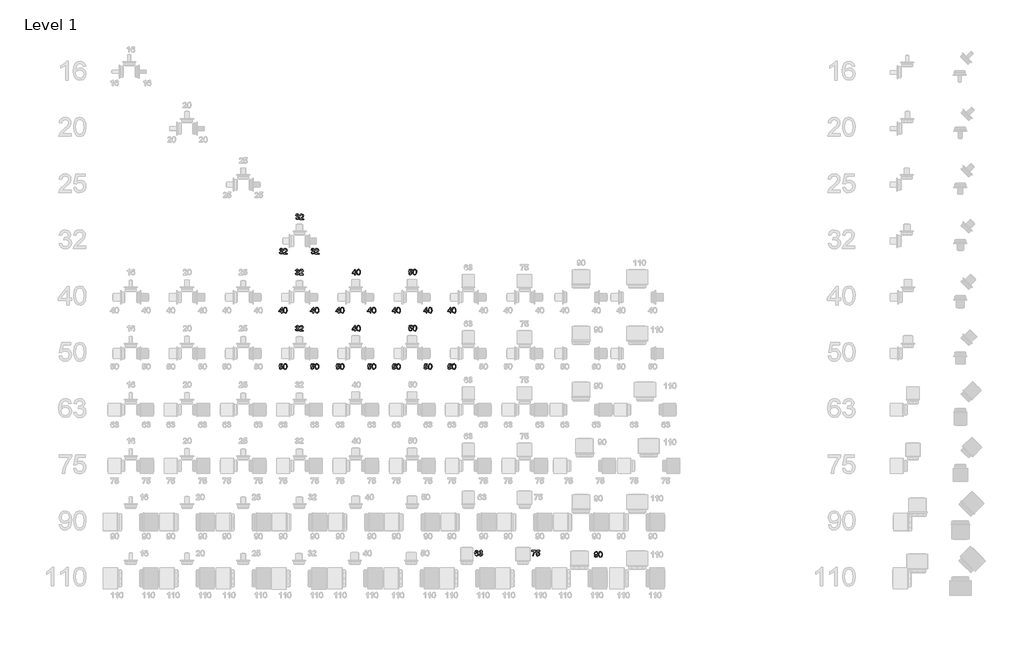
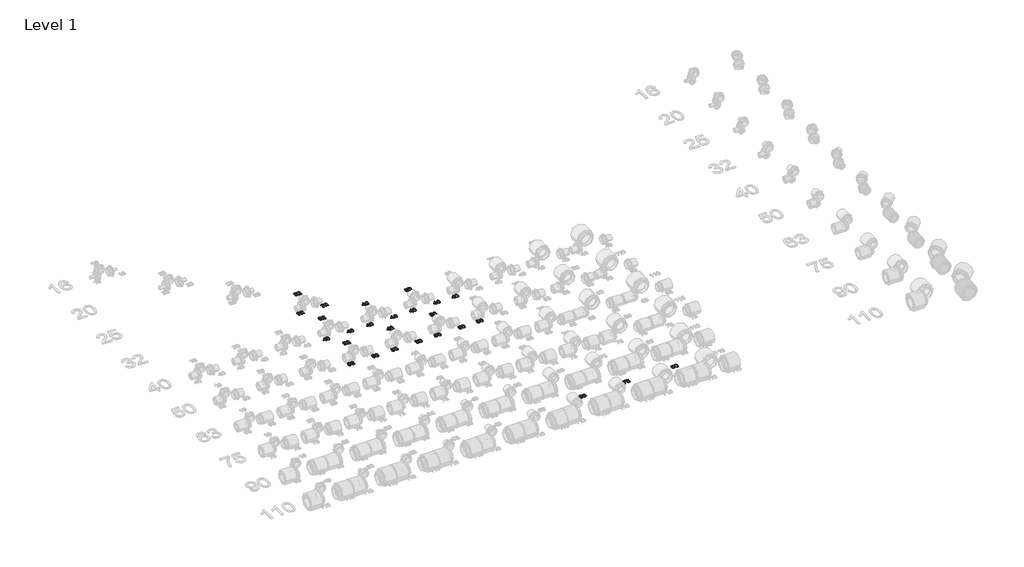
# One storey, part 24 of 58: 26 proxies.
"""IFC4 building model written with IfcOpenShell, lengths in millimetres."""

from ifc_helpers import new_model, si_unit, frame, origin, place, context, project, spatial, polyline, outline, extrude, element, save

model = new_model("IFC4")

# Units and contexts
model_context = context("Model", 3, world=origin())
ifc_project = project(units=[si_unit("LENGTHUNIT", "METRE", prefix="MILLI")], contexts=[model_context])

# Site, building, storey
site = spatial("IfcSite", under=ifc_project)
building = spatial("IfcBuilding", under=site)
storey = spatial("IfcBuildingStorey", under=building, Name="Level 1", Elevation=27.3876384)

# Proxies
placement = place(None, origin())
element("IfcBuildingElementProxy", 1, Name="30mm Arial", ObjectType="30mm Arial", at=placement, inside=storey, context=model_context, shape_type="SweptSolid", body=[
    extrude(outline(polyline([(14058.53543, 17685.5839661), (14062.3025417, 17686.0548551), (14064.3810749, 17682.0890872), (14068.2695876, 17680.8750766), (14072.8460396, 17682.5452609), (14074.5456545, 17686.6802545), (14072.8607549, 17690.5761248), (14068.5786085, 17692.1175504), (14065.9372158, 17691.7055225), (14066.3566012, 17695.4726342), (14071.2347165, 17696.5100614), (14073.1329876, 17699.8357146), (14071.7571089, 17702.7824494), (14068.2107265, 17703.9486353), (14064.6201982, 17702.771413), (14062.7734306, 17699.2397458), (14059.006319, 17699.7106348), (14062.0891701, 17705.6188196), (14068.078289, 17707.715747), (14072.6216316, 17706.6819986), (14075.8001321, 17703.8566648), (14076.9000992, 17700.0564438), (14075.8553144, 17696.5836378), (14072.7651056, 17694.0893979), (14076.8706687, 17691.5142239), (14078.3127661, 17686.6140357), (14075.4285712, 17679.8744376), (14068.1371501, 17677.107965), (14061.5299895, 17679.4697674), (14058.53543, 17685.5839661)])), frame((0.0, 0.0, 27.3876384), z_axis=(0.0, 0.0, 1.0), x_axis=(1.0, 0.0, 0.0)), (0.0, 0.0, 1.0), 2.0),
    extrude(outline(polyline([(14100.9154359, 17681.3459656), (14100.9154359, 17677.5788539), (14081.1380998, 17677.5788539), (14081.54277, 17680.1761008), (14083.830996, 17684.1749781), (14088.5472432, 17688.5417374), (14095.0513969, 17694.8178042), (14096.6774353, 17699.0852354), (14095.1433674, 17702.5396473), (14091.1371324, 17703.9486353), (14086.9616718, 17702.5727567), (14085.3761004, 17698.7688569), (14081.6089888, 17699.2397458), (14084.4968624, 17705.5452432), (14091.2180665, 17707.715747), (14097.9613434, 17705.3024411), (14100.4445469, 17699.3133222), (14099.7750017, 17695.741188), (14097.5493156, 17692.0476528), (14092.1524867, 17686.8862684), (14087.8188368, 17683.2626308), (14086.119222, 17681.3459656), (14100.9154359, 17681.3459656)])), frame((0.0, 0.0, 27.3876384), z_axis=(0.0, 0.0, 1.0), x_axis=(1.0, 0.0, 0.0)), (0.0, 0.0, 1.0), 2.0),
])
element("IfcBuildingElementProxy", 2, Name="30mm Arial", ObjectType="30mm Arial", at=placement, inside=storey, context=model_context, shape_type="SweptSolid", body=[
    extrude(outline(polyline([(14227.28543, 17685.5839661), (14231.0525417, 17686.0548551), (14233.1310749, 17682.0890872), (14237.0195876, 17680.8750766), (14241.5960396, 17682.5452609), (14243.2956545, 17686.6802545), (14241.6107549, 17690.5761248), (14237.3286085, 17692.1175504), (14234.6872158, 17691.7055225), (14235.1066012, 17695.4726342), (14239.9847165, 17696.5100614), (14241.8829876, 17699.8357146), (14240.5071089, 17702.7824494), (14236.9607265, 17703.9486353), (14233.3701982, 17702.771413), (14231.5234306, 17699.2397458), (14227.756319, 17699.7106348), (14230.8391701, 17705.6188196), (14236.828289, 17707.715747), (14241.3716316, 17706.6819986), (14244.5501321, 17703.8566648), (14245.6500992, 17700.0564438), (14244.6053144, 17696.5836378), (14241.5151056, 17694.0893979), (14245.6206687, 17691.5142239), (14247.0627661, 17686.6140357), (14244.1785712, 17679.8744376), (14236.8871501, 17677.107965), (14230.2799895, 17679.4697674), (14227.28543, 17685.5839661)])), frame((0.0, 0.0, 27.3876384), z_axis=(0.0, 0.0, 1.0), x_axis=(1.0, 0.0, 0.0)), (0.0, 0.0, 1.0), 2.0),
    extrude(outline(polyline([(14269.6654359, 17681.3459656), (14269.6654359, 17677.5788539), (14249.8880998, 17677.5788539), (14250.29277, 17680.1761008), (14252.580996, 17684.1749781), (14257.2972432, 17688.5417374), (14263.8013969, 17694.8178042), (14265.4274353, 17699.0852354), (14263.8933674, 17702.5396473), (14259.8871324, 17703.9486353), (14255.7116718, 17702.5727567), (14254.1261004, 17698.7688569), (14250.3589888, 17699.2397458), (14253.2468624, 17705.5452432), (14259.9680665, 17707.715747), (14266.7113434, 17705.3024411), (14269.1945469, 17699.3133222), (14268.5250017, 17695.741188), (14266.2993156, 17692.0476528), (14260.9024867, 17686.8862684), (14256.5688368, 17683.2626308), (14254.869222, 17681.3459656), (14269.6654359, 17681.3459656)])), frame((0.0, 0.0, 27.3876384), z_axis=(0.0, 0.0, 1.0), x_axis=(1.0, 0.0, 0.0)), (0.0, 0.0, 1.0), 2.0),
])
element("IfcBuildingElementProxy", 3, Name="30mm Arial", ObjectType="30mm Arial", at=placement, inside=storey, context=model_context, shape_type="SweptSolid", body=[
    extrude(outline(polyline([(14145.4636148, 17869.4026067), (14149.2307265, 17869.8734957), (14151.3092597, 17865.9077278), (14155.1977724, 17864.6937172), (14159.7742244, 17866.3639014), (14161.4738393, 17870.4988951), (14159.7889397, 17874.3947654), (14155.5067933, 17875.9361909), (14152.8654006, 17875.5241631), (14153.284786, 17879.2912747), (14158.1629013, 17880.328702), (14160.0611724, 17883.6543552), (14158.6852937, 17886.60109), (14155.1389113, 17887.7672759), (14151.548383, 17886.5900535), (14149.7016154, 17883.0583864), (14145.9345038, 17883.5292753), (14149.0173549, 17889.4374602), (14155.0064738, 17891.5343875), (14159.5498164, 17890.5006391), (14162.7283169, 17887.6753054), (14163.828284, 17883.8750844), (14162.7834992, 17880.4022784), (14159.6932904, 17877.9080384), (14163.7988535, 17875.3328645), (14165.2409509, 17870.4326763), (14162.356756, 17863.6930781), (14155.0653349, 17860.9266055), (14148.4581743, 17863.2884079), (14145.4636148, 17869.4026067)])), frame((0.0, 0.0, 27.3876384), z_axis=(0.0, 0.0, 1.0), x_axis=(1.0, 0.0, 0.0)), (0.0, 0.0, 1.0), 2.0),
    extrude(outline(polyline([(14187.8436207, 17865.1646061), (14187.8436207, 17861.3974945), (14168.0662846, 17861.3974945), (14168.4709548, 17863.9947414), (14170.7591808, 17867.9936187), (14175.475428, 17872.3603779), (14181.9795817, 17878.6364448), (14183.6056201, 17882.9038759), (14182.0715522, 17886.3582879), (14178.0653172, 17887.7672759), (14173.8898566, 17886.3913972), (14172.3042852, 17882.5874974), (14168.5371736, 17883.0583864), (14171.4250472, 17889.3638838), (14178.1462513, 17891.5343875), (14184.8895283, 17889.1210816), (14187.3727317, 17883.1319628), (14186.7031865, 17879.5598286), (14184.4775004, 17875.8662934), (14179.0806715, 17870.704909), (14174.7470216, 17867.0812713), (14173.0474068, 17865.1646061), (14187.8436207, 17865.1646061)])), frame((0.0, 0.0, 27.3876384), z_axis=(0.0, 0.0, 1.0), x_axis=(1.0, 0.0, 0.0)), (0.0, 0.0, 1.0), 2.0),
])
element("IfcBuildingElementProxy", 4, Name="30mm Arial", ObjectType="30mm Arial", at=placement, inside=storey, context=model_context, shape_type="SweptSolid", body=[
    extrude(outline(polyline([(14068.7785428, 17362.5788539), (14068.7785428, 17369.6421882), (14055.1227632, 17369.6421882), (14055.1227632, 17373.4092999), (14069.7203207, 17392.244858), (14072.5456545, 17392.244858), (14072.5456545, 17373.4092999), (14076.3127661, 17373.4092999), (14076.3127661, 17369.6421882), (14072.5456545, 17369.6421882), (14072.5456545, 17362.5788539), (14068.7785428, 17362.5788539)]), holes=[polyline([(14068.7785428, 17373.4092999), (14068.7785428, 17385.0490862), (14059.7580763, 17373.4092999), (14068.7785428, 17373.4092999)])]), frame((0.0, 0.0, 27.3876384), z_axis=(0.0, 0.0, 1.0), x_axis=(1.0, 0.0, 0.0)), (0.0, 0.0, 1.0), 2.0),
    extrude(outline(polyline([(14079.6089888, 17377.4044983), (14080.7163136, 17386.075477), (14084.0051786, 17391.0749933), (14089.4976568, 17392.715747), (14093.8975255, 17391.7445385), (14096.9362307, 17388.9449565), (14098.7020643, 17384.4862267), (14099.3863248, 17377.4044983), (14098.2900365, 17368.7703079), (14095.0122079, 17363.7597551), (14089.4976568, 17362.107965), (14082.6109058, 17364.9774445), (14079.6089888, 17377.4044983)]), holes=[polyline([(14083.3761004, 17377.411856), (14085.141934, 17368.0566168), (14089.4976568, 17365.8750766), (14093.8533796, 17368.0639745), (14095.6192132, 17377.411856), (14093.9122407, 17386.6604093), (14089.453511, 17388.9486353), (14085.2007951, 17386.932642), (14083.3761004, 17377.411856)])]), frame((0.0, 0.0, 27.3876384), z_axis=(0.0, 0.0, 1.0), x_axis=(1.0, 0.0, 0.0)), (0.0, 0.0, 1.0), 2.0),
])
element("IfcBuildingElementProxy", 5, Name="30mm Arial", ObjectType="30mm Arial", at=placement, inside=storey, context=model_context, shape_type="SweptSolid", body=[
    extrude(outline(polyline([(14237.5285428, 17362.5788539), (14237.5285428, 17369.6421882), (14223.8727632, 17369.6421882), (14223.8727632, 17373.4092999), (14238.4703207, 17392.244858), (14241.2956545, 17392.244858), (14241.2956545, 17373.4092999), (14245.0627661, 17373.4092999), (14245.0627661, 17369.6421882), (14241.2956545, 17369.6421882), (14241.2956545, 17362.5788539), (14237.5285428, 17362.5788539)]), holes=[polyline([(14237.5285428, 17373.4092999), (14237.5285428, 17385.0490862), (14228.5080763, 17373.4092999), (14237.5285428, 17373.4092999)])]), frame((0.0, 0.0, 27.3876384), z_axis=(0.0, 0.0, 1.0), x_axis=(1.0, 0.0, 0.0)), (0.0, 0.0, 1.0), 2.0),
    extrude(outline(polyline([(14248.3589888, 17377.4044983), (14249.4663136, 17386.075477), (14252.7551786, 17391.0749933), (14258.2476568, 17392.715747), (14262.6475255, 17391.7445385), (14265.6862307, 17388.9449565), (14267.4520643, 17384.4862267), (14268.1363248, 17377.4044983), (14267.0400365, 17368.7703079), (14263.7622079, 17363.7597551), (14258.2476568, 17362.107965), (14251.3609058, 17364.9774445), (14248.3589888, 17377.4044983)]), holes=[polyline([(14252.1261004, 17377.411856), (14253.891934, 17368.0566168), (14258.2476568, 17365.8750766), (14262.6033796, 17368.0639745), (14264.3692132, 17377.411856), (14262.6622407, 17386.6604093), (14258.203511, 17388.9486353), (14253.9507951, 17386.932642), (14252.1261004, 17377.411856)])]), frame((0.0, 0.0, 27.3876384), z_axis=(0.0, 0.0, 1.0), x_axis=(1.0, 0.0, 0.0)), (0.0, 0.0, 1.0), 2.0),
])
element("IfcBuildingElementProxy", 6, Name="30mm Arial", ObjectType="30mm Arial", at=placement, inside=storey, context=model_context, shape_type="SweptSolid", body=[
    extrude(outline(polyline([(14143.4636148, 17574.4026067), (14147.2307265, 17574.8734957), (14149.3092597, 17570.9077278), (14153.1977724, 17569.6937172), (14157.7742244, 17571.3639014), (14159.4738393, 17575.4988951), (14157.7889397, 17579.3947654), (14153.5067933, 17580.9361909), (14150.8654006, 17580.5241631), (14151.284786, 17584.2912747), (14156.1629013, 17585.328702), (14158.0611724, 17588.6543552), (14156.6852937, 17591.60109), (14153.1389113, 17592.7672759), (14149.548383, 17591.5900535), (14147.7016154, 17588.0583864), (14143.9345038, 17588.5292753), (14147.0173549, 17594.4374602), (14153.0064738, 17596.5343875), (14157.5498164, 17595.5006391), (14160.7283169, 17592.6753054), (14161.828284, 17588.8750844), (14160.7834992, 17585.4022784), (14157.6932904, 17582.9080384), (14161.7988535, 17580.3328645), (14163.2409509, 17575.4326763), (14160.356756, 17568.6930781), (14153.0653349, 17565.9266055), (14146.4581743, 17568.2884079), (14143.4636148, 17574.4026067)])), frame((0.0, 0.0, 27.3876384), z_axis=(0.0, 0.0, 1.0), x_axis=(1.0, 0.0, 0.0)), (0.0, 0.0, 1.0), 2.0),
    extrude(outline(polyline([(14185.8436207, 17570.1646061), (14185.8436207, 17566.3974945), (14166.0662846, 17566.3974945), (14166.4709548, 17568.9947414), (14168.7591808, 17572.9936187), (14173.475428, 17577.3603779), (14179.9795817, 17583.6364448), (14181.6056201, 17587.9038759), (14180.0715522, 17591.3582879), (14176.0653172, 17592.7672759), (14171.8898566, 17591.3913972), (14170.3042852, 17587.5874974), (14166.5371736, 17588.0583864), (14169.4250472, 17594.3638838), (14176.1462513, 17596.5343875), (14182.8895283, 17594.1210816), (14185.3727317, 17588.1319628), (14184.7031865, 17584.5598286), (14182.4775004, 17580.8662934), (14177.0806715, 17575.704909), (14172.7470216, 17572.0812713), (14171.0474068, 17570.1646061), (14185.8436207, 17570.1646061)])), frame((0.0, 0.0, 27.3876384), z_axis=(0.0, 0.0, 1.0), x_axis=(1.0, 0.0, 0.0)), (0.0, 0.0, 1.0), 2.0),
])
element("IfcBuildingElementProxy", 7, Name="30mm Arial", ObjectType="30mm Arial", at=placement, inside=storey, context=model_context, shape_type="SweptSolid", body=[
    extrude(outline(polyline([(14372.7785428, 17362.5788539), (14372.7785428, 17369.6421882), (14359.1227632, 17369.6421882), (14359.1227632, 17373.4092999), (14373.7203207, 17392.244858), (14376.5456545, 17392.244858), (14376.5456545, 17373.4092999), (14380.3127661, 17373.4092999), (14380.3127661, 17369.6421882), (14376.5456545, 17369.6421882), (14376.5456545, 17362.5788539), (14372.7785428, 17362.5788539)]), holes=[polyline([(14372.7785428, 17373.4092999), (14372.7785428, 17385.0490862), (14363.7580763, 17373.4092999), (14372.7785428, 17373.4092999)])]), frame((0.0, 0.0, 27.3876384), z_axis=(0.0, 0.0, 1.0), x_axis=(1.0, 0.0, 0.0)), (0.0, 0.0, 1.0), 2.0),
    extrude(outline(polyline([(14383.6089888, 17377.4044983), (14384.7163136, 17386.075477), (14388.0051786, 17391.0749933), (14393.4976568, 17392.715747), (14397.8975255, 17391.7445385), (14400.9362307, 17388.9449565), (14402.7020643, 17384.4862267), (14403.3863248, 17377.4044983), (14402.2900365, 17368.7703079), (14399.0122079, 17363.7597551), (14393.4976568, 17362.107965), (14386.6109058, 17364.9774445), (14383.6089888, 17377.4044983)]), holes=[polyline([(14387.3761004, 17377.411856), (14389.141934, 17368.0566168), (14393.4976568, 17365.8750766), (14397.8533796, 17368.0639745), (14399.6192132, 17377.411856), (14397.9122407, 17386.6604093), (14393.453511, 17388.9486353), (14389.2007951, 17386.932642), (14387.3761004, 17377.411856)])]), frame((0.0, 0.0, 27.3876384), z_axis=(0.0, 0.0, 1.0), x_axis=(1.0, 0.0, 0.0)), (0.0, 0.0, 1.0), 2.0),
])
element("IfcBuildingElementProxy", 8, Name="30mm Arial", ObjectType="30mm Arial", at=placement, inside=storey, context=model_context, shape_type="SweptSolid", body=[
    extrude(outline(polyline([(14541.5285428, 17362.5788539), (14541.5285428, 17369.6421882), (14527.8727632, 17369.6421882), (14527.8727632, 17373.4092999), (14542.4703207, 17392.244858), (14545.2956545, 17392.244858), (14545.2956545, 17373.4092999), (14549.0627661, 17373.4092999), (14549.0627661, 17369.6421882), (14545.2956545, 17369.6421882), (14545.2956545, 17362.5788539), (14541.5285428, 17362.5788539)]), holes=[polyline([(14541.5285428, 17373.4092999), (14541.5285428, 17385.0490862), (14532.5080763, 17373.4092999), (14541.5285428, 17373.4092999)])]), frame((0.0, 0.0, 27.3876384), z_axis=(0.0, 0.0, 1.0), x_axis=(1.0, 0.0, 0.0)), (0.0, 0.0, 1.0), 2.0),
    extrude(outline(polyline([(14552.3589888, 17377.4044983), (14553.4663136, 17386.075477), (14556.7551786, 17391.0749933), (14562.2476568, 17392.715747), (14566.6475255, 17391.7445385), (14569.6862307, 17388.9449565), (14571.4520643, 17384.4862267), (14572.1363248, 17377.4044983), (14571.0400365, 17368.7703079), (14567.7622079, 17363.7597551), (14562.2476568, 17362.107965), (14555.3609058, 17364.9774445), (14552.3589888, 17377.4044983)]), holes=[polyline([(14556.1261004, 17377.411856), (14557.891934, 17368.0566168), (14562.2476568, 17365.8750766), (14566.6033796, 17368.0639745), (14568.3692132, 17377.411856), (14566.6622407, 17386.6604093), (14562.203511, 17388.9486353), (14557.9507951, 17386.932642), (14556.1261004, 17377.411856)])]), frame((0.0, 0.0, 27.3876384), z_axis=(0.0, 0.0, 1.0), x_axis=(1.0, 0.0, 0.0)), (0.0, 0.0, 1.0), 2.0),
])
element("IfcBuildingElementProxy", 9, Name="30mm Arial", ObjectType="30mm Arial", at=placement, inside=storey, context=model_context, shape_type="SweptSolid", body=[
    extrude(outline(polyline([(14459.7067276, 17566.3974945), (14459.7067276, 17573.4608288), (14446.050948, 17573.4608288), (14446.050948, 17577.2279404), (14460.6485055, 17596.0634986), (14463.4738393, 17596.0634986), (14463.4738393, 17577.2279404), (14467.2409509, 17577.2279404), (14467.2409509, 17573.4608288), (14463.4738393, 17573.4608288), (14463.4738393, 17566.3974945), (14459.7067276, 17566.3974945)]), holes=[polyline([(14459.7067276, 17577.2279404), (14459.7067276, 17588.8677268), (14450.6862611, 17577.2279404), (14459.7067276, 17577.2279404)])]), frame((0.0, 0.0, 27.3876384), z_axis=(0.0, 0.0, 1.0), x_axis=(1.0, 0.0, 0.0)), (0.0, 0.0, 1.0), 2.0),
    extrude(outline(polyline([(14470.5371736, 17581.2231389), (14471.6444984, 17589.8941175), (14474.9333634, 17594.8936338), (14480.4258416, 17596.5343875), (14484.8257103, 17595.5631791), (14487.8644155, 17592.7635971), (14489.6302491, 17588.3048673), (14490.3145096, 17581.2231389), (14489.2182213, 17572.5889485), (14485.9403927, 17567.5783957), (14480.4258416, 17565.9266055), (14473.5390906, 17568.7960851), (14470.5371736, 17581.2231389)]), holes=[polyline([(14474.3042852, 17581.2304965), (14476.0701188, 17571.8752574), (14480.4258416, 17569.6937172), (14484.7815644, 17571.882615), (14486.547398, 17581.2304965), (14484.8404255, 17590.4790499), (14480.3816958, 17592.7672759), (14476.1289799, 17590.7512826), (14474.3042852, 17581.2304965)])]), frame((0.0, 0.0, 27.3876384), z_axis=(0.0, 0.0, 1.0), x_axis=(1.0, 0.0, 0.0)), (0.0, 0.0, 1.0), 2.0),
])
element("IfcBuildingElementProxy", 10, Name="30mm Arial", ObjectType="30mm Arial", at=placement, inside=storey, context=model_context, shape_type="SweptSolid", body=[
    extrude(outline(polyline([(14672.7785428, 17362.5788539), (14672.7785428, 17369.6421882), (14659.1227632, 17369.6421882), (14659.1227632, 17373.4092999), (14673.7203207, 17392.244858), (14676.5456545, 17392.244858), (14676.5456545, 17373.4092999), (14680.3127661, 17373.4092999), (14680.3127661, 17369.6421882), (14676.5456545, 17369.6421882), (14676.5456545, 17362.5788539), (14672.7785428, 17362.5788539)]), holes=[polyline([(14672.7785428, 17373.4092999), (14672.7785428, 17385.0490862), (14663.7580763, 17373.4092999), (14672.7785428, 17373.4092999)])]), frame((0.0, 0.0, 27.3876384), z_axis=(0.0, 0.0, 1.0), x_axis=(1.0, 0.0, 0.0)), (0.0, 0.0, 1.0), 2.0),
    extrude(outline(polyline([(14683.6089888, 17377.4044983), (14684.7163136, 17386.075477), (14688.0051786, 17391.0749933), (14693.4976568, 17392.715747), (14697.8975255, 17391.7445385), (14700.9362307, 17388.9449565), (14702.7020643, 17384.4862267), (14703.3863248, 17377.4044983), (14702.2900365, 17368.7703079), (14699.0122079, 17363.7597551), (14693.4976568, 17362.107965), (14686.6109058, 17364.9774445), (14683.6089888, 17377.4044983)]), holes=[polyline([(14687.3761004, 17377.411856), (14689.141934, 17368.0566168), (14693.4976568, 17365.8750766), (14697.8533796, 17368.0639745), (14699.6192132, 17377.411856), (14697.9122407, 17386.6604093), (14693.453511, 17388.9486353), (14689.2007951, 17386.932642), (14687.3761004, 17377.411856)])]), frame((0.0, 0.0, 27.3876384), z_axis=(0.0, 0.0, 1.0), x_axis=(1.0, 0.0, 0.0)), (0.0, 0.0, 1.0), 2.0),
])
element("IfcBuildingElementProxy", 11, Name="30mm Arial", ObjectType="30mm Arial", at=placement, inside=storey, context=model_context, shape_type="SweptSolid", body=[
    extrude(outline(polyline([(14841.5285428, 17362.5788539), (14841.5285428, 17369.6421882), (14827.8727632, 17369.6421882), (14827.8727632, 17373.4092999), (14842.4703207, 17392.244858), (14845.2956545, 17392.244858), (14845.2956545, 17373.4092999), (14849.0627661, 17373.4092999), (14849.0627661, 17369.6421882), (14845.2956545, 17369.6421882), (14845.2956545, 17362.5788539), (14841.5285428, 17362.5788539)]), holes=[polyline([(14841.5285428, 17373.4092999), (14841.5285428, 17385.0490862), (14832.5080763, 17373.4092999), (14841.5285428, 17373.4092999)])]), frame((0.0, 0.0, 27.3876384), z_axis=(0.0, 0.0, 1.0), x_axis=(1.0, 0.0, 0.0)), (0.0, 0.0, 1.0), 2.0),
    extrude(outline(polyline([(14852.3589888, 17377.4044983), (14853.4663136, 17386.075477), (14856.7551786, 17391.0749933), (14862.2476568, 17392.715747), (14866.6475255, 17391.7445385), (14869.6862307, 17388.9449565), (14871.4520643, 17384.4862267), (14872.1363248, 17377.4044983), (14871.0400365, 17368.7703079), (14867.7622079, 17363.7597551), (14862.2476568, 17362.107965), (14855.3609058, 17364.9774445), (14852.3589888, 17377.4044983)]), holes=[polyline([(14856.1261004, 17377.411856), (14857.891934, 17368.0566168), (14862.2476568, 17365.8750766), (14866.6033796, 17368.0639745), (14868.3692132, 17377.411856), (14866.6622407, 17386.6604093), (14862.203511, 17388.9486353), (14857.9507951, 17386.932642), (14856.1261004, 17377.411856)])]), frame((0.0, 0.0, 27.3876384), z_axis=(0.0, 0.0, 1.0), x_axis=(1.0, 0.0, 0.0)), (0.0, 0.0, 1.0), 2.0),
])
element("IfcBuildingElementProxy", 12, Name="30mm Arial", ObjectType="30mm Arial", at=placement, inside=storey, context=model_context, shape_type="SweptSolid", body=[
    extrude(outline(polyline([(14747.4636148, 17574.4026067), (14751.2307265, 17574.8734957), (14753.1289976, 17570.9923406), (14757.0653349, 17569.6937172), (14761.7889397, 17571.5000178), (14763.4738393, 17576.2935202), (14761.8956255, 17580.7669652), (14757.124196, 17582.4077189), (14753.8169369, 17581.752889), (14751.7016154, 17580.0532742), (14747.9345038, 17580.5241631), (14751.2307265, 17596.0634986), (14765.828284, 17596.0634986), (14765.828284, 17592.296387), (14754.2767894, 17592.296387), (14752.6654662, 17583.9969691), (14758.1763385, 17586.1748306), (14764.6179523, 17583.4745767), (14767.2409509, 17576.5289646), (14764.8791485, 17569.5392067), (14757.0506196, 17565.9266055), (14750.402992, 17568.2479409), (14747.4636148, 17574.4026067)])), frame((0.0, 0.0, 27.3876384), z_axis=(0.0, 0.0, 1.0), x_axis=(1.0, 0.0, 0.0)), (0.0, 0.0, 1.0), 2.0),
    extrude(outline(polyline([(14770.5371736, 17581.2231389), (14771.6444984, 17589.8941175), (14774.9333634, 17594.8936338), (14780.4258416, 17596.5343875), (14784.8257103, 17595.5631791), (14787.8644155, 17592.7635971), (14789.6302491, 17588.3048673), (14790.3145096, 17581.2231389), (14789.2182213, 17572.5889485), (14785.9403927, 17567.5783957), (14780.4258416, 17565.9266055), (14773.5390906, 17568.7960851), (14770.5371736, 17581.2231389)]), holes=[polyline([(14774.3042852, 17581.2304965), (14776.0701188, 17571.8752574), (14780.4258416, 17569.6937172), (14784.7815644, 17571.882615), (14786.547398, 17581.2304965), (14784.8404255, 17590.4790499), (14780.3816958, 17592.7672759), (14776.1289799, 17590.7512826), (14774.3042852, 17581.2304965)])]), frame((0.0, 0.0, 27.3876384), z_axis=(0.0, 0.0, 1.0), x_axis=(1.0, 0.0, 0.0)), (0.0, 0.0, 1.0), 2.0),
])
element("IfcBuildingElementProxy", 13, Name="30mm Arial", ObjectType="30mm Arial", at=placement, inside=storey, context=model_context, shape_type="SweptSolid", body=[
    extrude(outline(polyline([(14968.7785428, 17362.5788539), (14968.7785428, 17369.6421882), (14955.1227632, 17369.6421882), (14955.1227632, 17373.4092999), (14969.7203207, 17392.244858), (14972.5456545, 17392.244858), (14972.5456545, 17373.4092999), (14976.3127661, 17373.4092999), (14976.3127661, 17369.6421882), (14972.5456545, 17369.6421882), (14972.5456545, 17362.5788539), (14968.7785428, 17362.5788539)]), holes=[polyline([(14968.7785428, 17373.4092999), (14968.7785428, 17385.0490862), (14959.7580763, 17373.4092999), (14968.7785428, 17373.4092999)])]), frame((0.0, 0.0, 27.3876384), z_axis=(0.0, 0.0, 1.0), x_axis=(1.0, 0.0, 0.0)), (0.0, 0.0, 1.0), 2.0),
    extrude(outline(polyline([(14979.6089888, 17377.4044983), (14980.7163136, 17386.075477), (14984.0051786, 17391.0749933), (14989.4976568, 17392.715747), (14993.8975255, 17391.7445385), (14996.9362307, 17388.9449565), (14998.7020643, 17384.4862267), (14999.3863248, 17377.4044983), (14998.2900365, 17368.7703079), (14995.0122079, 17363.7597551), (14989.4976568, 17362.107965), (14982.6109058, 17364.9774445), (14979.6089888, 17377.4044983)]), holes=[polyline([(14983.3761004, 17377.411856), (14985.141934, 17368.0566168), (14989.4976568, 17365.8750766), (14993.8533796, 17368.0639745), (14995.6192132, 17377.411856), (14993.9122407, 17386.6604093), (14989.453511, 17388.9486353), (14985.2007951, 17386.932642), (14983.3761004, 17377.411856)])]), frame((0.0, 0.0, 27.3876384), z_axis=(0.0, 0.0, 1.0), x_axis=(1.0, 0.0, 0.0)), (0.0, 0.0, 1.0), 2.0),
])
element("IfcBuildingElementProxy", 14, Name="30mm Arial", ObjectType="30mm Arial", at=placement, inside=storey, context=model_context, shape_type="SweptSolid", body=[
    extrude(outline(polyline([(14056.53543, 17070.5839661), (14060.3025417, 17071.0548551), (14062.2008128, 17067.1737001), (14066.1371501, 17065.8750766), (14070.8607549, 17067.6813772), (14072.5456545, 17072.4748796), (14070.9674407, 17076.9483247), (14066.1960112, 17078.5890784), (14062.8887521, 17077.9342484), (14060.7734306, 17076.2346336), (14057.006319, 17076.7055225), (14060.3025417, 17092.244858), (14074.9000992, 17092.244858), (14074.9000992, 17088.4777464), (14063.3486046, 17088.4777464), (14061.7372814, 17080.1783286), (14067.2481537, 17082.35619), (14073.6897675, 17079.6559361), (14076.3127661, 17072.7103241), (14073.9509637, 17065.7205662), (14066.1224348, 17062.107965), (14059.4748072, 17064.4293004), (14056.53543, 17070.5839661)])), frame((0.0, 0.0, 27.3876384), z_axis=(0.0, 0.0, 1.0), x_axis=(1.0, 0.0, 0.0)), (0.0, 0.0, 1.0), 2.0),
    extrude(outline(polyline([(14079.6089888, 17077.4044983), (14080.7163136, 17086.075477), (14084.0051786, 17091.0749933), (14089.4976568, 17092.715747), (14093.8975255, 17091.7445385), (14096.9362307, 17088.9449565), (14098.7020643, 17084.4862267), (14099.3863248, 17077.4044983), (14098.2900365, 17068.7703079), (14095.0122079, 17063.7597551), (14089.4976568, 17062.107965), (14082.6109058, 17064.9774445), (14079.6089888, 17077.4044983)]), holes=[polyline([(14083.3761004, 17077.411856), (14085.141934, 17068.0566168), (14089.4976568, 17065.8750766), (14093.8533796, 17068.0639745), (14095.6192132, 17077.411856), (14093.9122407, 17086.6604093), (14089.453511, 17088.9486353), (14085.2007951, 17086.932642), (14083.3761004, 17077.411856)])]), frame((0.0, 0.0, 27.3876384), z_axis=(0.0, 0.0, 1.0), x_axis=(1.0, 0.0, 0.0)), (0.0, 0.0, 1.0), 2.0),
])
element("IfcBuildingElementProxy", 15, Name="30mm Arial", ObjectType="30mm Arial", at=placement, inside=storey, context=model_context, shape_type="SweptSolid", body=[
    extrude(outline(polyline([(14225.28543, 17070.5839661), (14229.0525417, 17071.0548551), (14230.9508128, 17067.1737001), (14234.8871501, 17065.8750766), (14239.6107549, 17067.6813772), (14241.2956545, 17072.4748796), (14239.7174407, 17076.9483247), (14234.9460112, 17078.5890784), (14231.6387521, 17077.9342484), (14229.5234306, 17076.2346336), (14225.756319, 17076.7055225), (14229.0525417, 17092.244858), (14243.6500992, 17092.244858), (14243.6500992, 17088.4777464), (14232.0986046, 17088.4777464), (14230.4872814, 17080.1783286), (14235.9981537, 17082.35619), (14242.4397675, 17079.6559361), (14245.0627661, 17072.7103241), (14242.7009637, 17065.7205662), (14234.8724348, 17062.107965), (14228.2248072, 17064.4293004), (14225.28543, 17070.5839661)])), frame((0.0, 0.0, 27.3876384), z_axis=(0.0, 0.0, 1.0), x_axis=(1.0, 0.0, 0.0)), (0.0, 0.0, 1.0), 2.0),
    extrude(outline(polyline([(14248.3589888, 17077.4044983), (14249.4663136, 17086.075477), (14252.7551786, 17091.0749933), (14258.2476568, 17092.715747), (14262.6475255, 17091.7445385), (14265.6862307, 17088.9449565), (14267.4520643, 17084.4862267), (14268.1363248, 17077.4044983), (14267.0400365, 17068.7703079), (14263.7622079, 17063.7597551), (14258.2476568, 17062.107965), (14251.3609058, 17064.9774445), (14248.3589888, 17077.4044983)]), holes=[polyline([(14252.1261004, 17077.411856), (14253.891934, 17068.0566168), (14258.2476568, 17065.8750766), (14262.6033796, 17068.0639745), (14264.3692132, 17077.411856), (14262.6622407, 17086.6604093), (14258.203511, 17088.9486353), (14253.9507951, 17086.932642), (14252.1261004, 17077.411856)])]), frame((0.0, 0.0, 27.3876384), z_axis=(0.0, 0.0, 1.0), x_axis=(1.0, 0.0, 0.0)), (0.0, 0.0, 1.0), 2.0),
])
element("IfcBuildingElementProxy", 16, Name="30mm Arial", ObjectType="30mm Arial", at=placement, inside=storey, context=model_context, shape_type="SweptSolid", body=[
    extrude(outline(polyline([(14143.4636148, 17274.4026067), (14147.2307265, 17274.8734957), (14149.3092597, 17270.9077278), (14153.1977724, 17269.6937172), (14157.7742244, 17271.3639014), (14159.4738393, 17275.4988951), (14157.7889397, 17279.3947654), (14153.5067933, 17280.9361909), (14150.8654006, 17280.5241631), (14151.284786, 17284.2912747), (14156.1629013, 17285.328702), (14158.0611724, 17288.6543552), (14156.6852937, 17291.60109), (14153.1389113, 17292.7672759), (14149.548383, 17291.5900535), (14147.7016154, 17288.0583864), (14143.9345038, 17288.5292753), (14147.0173549, 17294.4374602), (14153.0064738, 17296.5343875), (14157.5498164, 17295.5006391), (14160.7283169, 17292.6753054), (14161.828284, 17288.8750844), (14160.7834992, 17285.4022784), (14157.6932904, 17282.9080384), (14161.7988535, 17280.3328645), (14163.2409509, 17275.4326763), (14160.356756, 17268.6930781), (14153.0653349, 17265.9266055), (14146.4581743, 17268.2884079), (14143.4636148, 17274.4026067)])), frame((0.0, 0.0, 27.3876384), z_axis=(0.0, 0.0, 1.0), x_axis=(1.0, 0.0, 0.0)), (0.0, 0.0, 1.0), 2.0),
    extrude(outline(polyline([(14185.8436207, 17270.1646061), (14185.8436207, 17266.3974945), (14166.0662846, 17266.3974945), (14166.4709548, 17268.9947414), (14168.7591808, 17272.9936187), (14173.475428, 17277.3603779), (14179.9795817, 17283.6364448), (14181.6056201, 17287.9038759), (14180.0715522, 17291.3582879), (14176.0653172, 17292.7672759), (14171.8898566, 17291.3913972), (14170.3042852, 17287.5874974), (14166.5371736, 17288.0583864), (14169.4250472, 17294.3638838), (14176.1462513, 17296.5343875), (14182.8895283, 17294.1210816), (14185.3727317, 17288.1319628), (14184.7031865, 17284.5598286), (14182.4775004, 17280.8662934), (14177.0806715, 17275.704909), (14172.7470216, 17272.0812713), (14171.0474068, 17270.1646061), (14185.8436207, 17270.1646061)])), frame((0.0, 0.0, 27.3876384), z_axis=(0.0, 0.0, 1.0), x_axis=(1.0, 0.0, 0.0)), (0.0, 0.0, 1.0), 2.0),
])
element("IfcBuildingElementProxy", 17, Name="30mm Arial", ObjectType="30mm Arial", at=placement, inside=storey, context=model_context, shape_type="SweptSolid", body=[
    extrude(outline(polyline([(14360.53543, 17070.5839661), (14364.3025417, 17071.0548551), (14366.2008128, 17067.1737001), (14370.1371501, 17065.8750766), (14374.8607549, 17067.6813772), (14376.5456545, 17072.4748796), (14374.9674407, 17076.9483247), (14370.1960112, 17078.5890784), (14366.8887521, 17077.9342484), (14364.7734306, 17076.2346336), (14361.006319, 17076.7055225), (14364.3025417, 17092.244858), (14378.9000992, 17092.244858), (14378.9000992, 17088.4777464), (14367.3486046, 17088.4777464), (14365.7372814, 17080.1783286), (14371.2481537, 17082.35619), (14377.6897675, 17079.6559361), (14380.3127661, 17072.7103241), (14377.9509637, 17065.7205662), (14370.1224348, 17062.107965), (14363.4748072, 17064.4293004), (14360.53543, 17070.5839661)])), frame((0.0, 0.0, 27.3876384), z_axis=(0.0, 0.0, 1.0), x_axis=(1.0, 0.0, 0.0)), (0.0, 0.0, 1.0), 2.0),
    extrude(outline(polyline([(14383.6089888, 17077.4044983), (14384.7163136, 17086.075477), (14388.0051786, 17091.0749933), (14393.4976568, 17092.715747), (14397.8975255, 17091.7445385), (14400.9362307, 17088.9449565), (14402.7020643, 17084.4862267), (14403.3863248, 17077.4044983), (14402.2900365, 17068.7703079), (14399.0122079, 17063.7597551), (14393.4976568, 17062.107965), (14386.6109058, 17064.9774445), (14383.6089888, 17077.4044983)]), holes=[polyline([(14387.3761004, 17077.411856), (14389.141934, 17068.0566168), (14393.4976568, 17065.8750766), (14397.8533796, 17068.0639745), (14399.6192132, 17077.411856), (14397.9122407, 17086.6604093), (14393.453511, 17088.9486353), (14389.2007951, 17086.932642), (14387.3761004, 17077.411856)])]), frame((0.0, 0.0, 27.3876384), z_axis=(0.0, 0.0, 1.0), x_axis=(1.0, 0.0, 0.0)), (0.0, 0.0, 1.0), 2.0),
])
element("IfcBuildingElementProxy", 18, Name="30mm Arial", ObjectType="30mm Arial", at=placement, inside=storey, context=model_context, shape_type="SweptSolid", body=[
    extrude(outline(polyline([(14529.28543, 17070.5839661), (14533.0525417, 17071.0548551), (14534.9508128, 17067.1737001), (14538.8871501, 17065.8750766), (14543.6107549, 17067.6813772), (14545.2956545, 17072.4748796), (14543.7174407, 17076.9483247), (14538.9460112, 17078.5890784), (14535.6387521, 17077.9342484), (14533.5234306, 17076.2346336), (14529.756319, 17076.7055225), (14533.0525417, 17092.244858), (14547.6500992, 17092.244858), (14547.6500992, 17088.4777464), (14536.0986046, 17088.4777464), (14534.4872814, 17080.1783286), (14539.9981537, 17082.35619), (14546.4397675, 17079.6559361), (14549.0627661, 17072.7103241), (14546.7009637, 17065.7205662), (14538.8724348, 17062.107965), (14532.2248072, 17064.4293004), (14529.28543, 17070.5839661)])), frame((0.0, 0.0, 27.3876384), z_axis=(0.0, 0.0, 1.0), x_axis=(1.0, 0.0, 0.0)), (0.0, 0.0, 1.0), 2.0),
    extrude(outline(polyline([(14552.3589888, 17077.4044983), (14553.4663136, 17086.075477), (14556.7551786, 17091.0749933), (14562.2476568, 17092.715747), (14566.6475255, 17091.7445385), (14569.6862307, 17088.9449565), (14571.4520643, 17084.4862267), (14572.1363248, 17077.4044983), (14571.0400365, 17068.7703079), (14567.7622079, 17063.7597551), (14562.2476568, 17062.107965), (14555.3609058, 17064.9774445), (14552.3589888, 17077.4044983)]), holes=[polyline([(14556.1261004, 17077.411856), (14557.891934, 17068.0566168), (14562.2476568, 17065.8750766), (14566.6033796, 17068.0639745), (14568.3692132, 17077.411856), (14566.6622407, 17086.6604093), (14562.203511, 17088.9486353), (14557.9507951, 17086.932642), (14556.1261004, 17077.411856)])]), frame((0.0, 0.0, 27.3876384), z_axis=(0.0, 0.0, 1.0), x_axis=(1.0, 0.0, 0.0)), (0.0, 0.0, 1.0), 2.0),
])
element("IfcBuildingElementProxy", 19, Name="30mm Arial", ObjectType="30mm Arial", at=placement, inside=storey, context=model_context, shape_type="SweptSolid", body=[
    extrude(outline(polyline([(14459.7067276, 17266.3974945), (14459.7067276, 17273.4608288), (14446.050948, 17273.4608288), (14446.050948, 17277.2279404), (14460.6485055, 17296.0634986), (14463.4738393, 17296.0634986), (14463.4738393, 17277.2279404), (14467.2409509, 17277.2279404), (14467.2409509, 17273.4608288), (14463.4738393, 17273.4608288), (14463.4738393, 17266.3974945), (14459.7067276, 17266.3974945)]), holes=[polyline([(14459.7067276, 17277.2279404), (14459.7067276, 17288.8677268), (14450.6862611, 17277.2279404), (14459.7067276, 17277.2279404)])]), frame((0.0, 0.0, 27.3876384), z_axis=(0.0, 0.0, 1.0), x_axis=(1.0, 0.0, 0.0)), (0.0, 0.0, 1.0), 2.0),
    extrude(outline(polyline([(14470.5371736, 17281.2231389), (14471.6444984, 17289.8941175), (14474.9333634, 17294.8936338), (14480.4258416, 17296.5343875), (14484.8257103, 17295.5631791), (14487.8644155, 17292.7635971), (14489.6302491, 17288.3048673), (14490.3145096, 17281.2231389), (14489.2182213, 17272.5889485), (14485.9403927, 17267.5783957), (14480.4258416, 17265.9266055), (14473.5390906, 17268.7960851), (14470.5371736, 17281.2231389)]), holes=[polyline([(14474.3042852, 17281.2304965), (14476.0701188, 17271.8752574), (14480.4258416, 17269.6937172), (14484.7815644, 17271.882615), (14486.547398, 17281.2304965), (14484.8404255, 17290.4790499), (14480.3816958, 17292.7672759), (14476.1289799, 17290.7512826), (14474.3042852, 17281.2304965)])]), frame((0.0, 0.0, 27.3876384), z_axis=(0.0, 0.0, 1.0), x_axis=(1.0, 0.0, 0.0)), (0.0, 0.0, 1.0), 2.0),
])
element("IfcBuildingElementProxy", 20, Name="30mm Arial", ObjectType="30mm Arial", at=placement, inside=storey, context=model_context, shape_type="SweptSolid", body=[
    extrude(outline(polyline([(14660.53543, 17070.5839661), (14664.3025417, 17071.0548551), (14666.2008128, 17067.1737001), (14670.1371501, 17065.8750766), (14674.8607549, 17067.6813772), (14676.5456545, 17072.4748796), (14674.9674407, 17076.9483247), (14670.1960112, 17078.5890784), (14666.8887521, 17077.9342484), (14664.7734306, 17076.2346336), (14661.006319, 17076.7055225), (14664.3025417, 17092.244858), (14678.9000992, 17092.244858), (14678.9000992, 17088.4777464), (14667.3486046, 17088.4777464), (14665.7372814, 17080.1783286), (14671.2481537, 17082.35619), (14677.6897675, 17079.6559361), (14680.3127661, 17072.7103241), (14677.9509637, 17065.7205662), (14670.1224348, 17062.107965), (14663.4748072, 17064.4293004), (14660.53543, 17070.5839661)])), frame((0.0, 0.0, 27.3876384), z_axis=(0.0, 0.0, 1.0), x_axis=(1.0, 0.0, 0.0)), (0.0, 0.0, 1.0), 2.0),
    extrude(outline(polyline([(14683.6089888, 17077.4044983), (14684.7163136, 17086.075477), (14688.0051786, 17091.0749933), (14693.4976568, 17092.715747), (14697.8975255, 17091.7445385), (14700.9362307, 17088.9449565), (14702.7020643, 17084.4862267), (14703.3863248, 17077.4044983), (14702.2900365, 17068.7703079), (14699.0122079, 17063.7597551), (14693.4976568, 17062.107965), (14686.6109058, 17064.9774445), (14683.6089888, 17077.4044983)]), holes=[polyline([(14687.3761004, 17077.411856), (14689.141934, 17068.0566168), (14693.4976568, 17065.8750766), (14697.8533796, 17068.0639745), (14699.6192132, 17077.411856), (14697.9122407, 17086.6604093), (14693.453511, 17088.9486353), (14689.2007951, 17086.932642), (14687.3761004, 17077.411856)])]), frame((0.0, 0.0, 27.3876384), z_axis=(0.0, 0.0, 1.0), x_axis=(1.0, 0.0, 0.0)), (0.0, 0.0, 1.0), 2.0),
])
element("IfcBuildingElementProxy", 21, Name="30mm Arial", ObjectType="30mm Arial", at=placement, inside=storey, context=model_context, shape_type="SweptSolid", body=[
    extrude(outline(polyline([(14829.28543, 17070.5839661), (14833.0525417, 17071.0548551), (14834.9508128, 17067.1737001), (14838.8871501, 17065.8750766), (14843.6107549, 17067.6813772), (14845.2956545, 17072.4748796), (14843.7174407, 17076.9483247), (14838.9460112, 17078.5890784), (14835.6387521, 17077.9342484), (14833.5234306, 17076.2346336), (14829.756319, 17076.7055225), (14833.0525417, 17092.244858), (14847.6500992, 17092.244858), (14847.6500992, 17088.4777464), (14836.0986046, 17088.4777464), (14834.4872814, 17080.1783286), (14839.9981537, 17082.35619), (14846.4397675, 17079.6559361), (14849.0627661, 17072.7103241), (14846.7009637, 17065.7205662), (14838.8724348, 17062.107965), (14832.2248072, 17064.4293004), (14829.28543, 17070.5839661)])), frame((0.0, 0.0, 27.3876384), z_axis=(0.0, 0.0, 1.0), x_axis=(1.0, 0.0, 0.0)), (0.0, 0.0, 1.0), 2.0),
    extrude(outline(polyline([(14852.3589888, 17077.4044983), (14853.4663136, 17086.075477), (14856.7551786, 17091.0749933), (14862.2476568, 17092.715747), (14866.6475255, 17091.7445385), (14869.6862307, 17088.9449565), (14871.4520643, 17084.4862267), (14872.1363248, 17077.4044983), (14871.0400365, 17068.7703079), (14867.7622079, 17063.7597551), (14862.2476568, 17062.107965), (14855.3609058, 17064.9774445), (14852.3589888, 17077.4044983)]), holes=[polyline([(14856.1261004, 17077.411856), (14857.891934, 17068.0566168), (14862.2476568, 17065.8750766), (14866.6033796, 17068.0639745), (14868.3692132, 17077.411856), (14866.6622407, 17086.6604093), (14862.203511, 17088.9486353), (14857.9507951, 17086.932642), (14856.1261004, 17077.411856)])]), frame((0.0, 0.0, 27.3876384), z_axis=(0.0, 0.0, 1.0), x_axis=(1.0, 0.0, 0.0)), (0.0, 0.0, 1.0), 2.0),
])
element("IfcBuildingElementProxy", 22, Name="30mm Arial", ObjectType="30mm Arial", at=placement, inside=storey, context=model_context, shape_type="SweptSolid", body=[
    extrude(outline(polyline([(14747.4636148, 17274.4026067), (14751.2307265, 17274.8734957), (14753.1289976, 17270.9923406), (14757.0653349, 17269.6937172), (14761.7889397, 17271.5000178), (14763.4738393, 17276.2935202), (14761.8956255, 17280.7669652), (14757.124196, 17282.4077189), (14753.8169369, 17281.752889), (14751.7016154, 17280.0532742), (14747.9345038, 17280.5241631), (14751.2307265, 17296.0634986), (14765.828284, 17296.0634986), (14765.828284, 17292.296387), (14754.2767894, 17292.296387), (14752.6654662, 17283.9969691), (14758.1763385, 17286.1748306), (14764.6179523, 17283.4745767), (14767.2409509, 17276.5289646), (14764.8791485, 17269.5392067), (14757.0506196, 17265.9266055), (14750.402992, 17268.2479409), (14747.4636148, 17274.4026067)])), frame((0.0, 0.0, 27.3876384), z_axis=(0.0, 0.0, 1.0), x_axis=(1.0, 0.0, 0.0)), (0.0, 0.0, 1.0), 2.0),
    extrude(outline(polyline([(14770.5371736, 17281.2231389), (14771.6444984, 17289.8941175), (14774.9333634, 17294.8936338), (14780.4258416, 17296.5343875), (14784.8257103, 17295.5631791), (14787.8644155, 17292.7635971), (14789.6302491, 17288.3048673), (14790.3145096, 17281.2231389), (14789.2182213, 17272.5889485), (14785.9403927, 17267.5783957), (14780.4258416, 17265.9266055), (14773.5390906, 17268.7960851), (14770.5371736, 17281.2231389)]), holes=[polyline([(14774.3042852, 17281.2304965), (14776.0701188, 17271.8752574), (14780.4258416, 17269.6937172), (14784.7815644, 17271.882615), (14786.547398, 17281.2304965), (14784.8404255, 17290.4790499), (14780.3816958, 17292.7672759), (14776.1289799, 17290.7512826), (14774.3042852, 17281.2304965)])]), frame((0.0, 0.0, 27.3876384), z_axis=(0.0, 0.0, 1.0), x_axis=(1.0, 0.0, 0.0)), (0.0, 0.0, 1.0), 2.0),
])
element("IfcBuildingElementProxy", 23, Name="30mm Arial", ObjectType="30mm Arial", at=placement, inside=storey, context=model_context, shape_type="SweptSolid", body=[
    extrude(outline(polyline([(14956.53543, 17070.5839661), (14960.3025417, 17071.0548551), (14962.2008128, 17067.1737001), (14966.1371501, 17065.8750766), (14970.8607549, 17067.6813772), (14972.5456545, 17072.4748796), (14970.9674407, 17076.9483247), (14966.1960112, 17078.5890784), (14962.8887521, 17077.9342484), (14960.7734306, 17076.2346336), (14957.006319, 17076.7055225), (14960.3025417, 17092.244858), (14974.9000992, 17092.244858), (14974.9000992, 17088.4777464), (14963.3486046, 17088.4777464), (14961.7372814, 17080.1783286), (14967.2481537, 17082.35619), (14973.6897675, 17079.6559361), (14976.3127661, 17072.7103241), (14973.9509637, 17065.7205662), (14966.1224348, 17062.107965), (14959.4748072, 17064.4293004), (14956.53543, 17070.5839661)])), frame((0.0, 0.0, 27.3876384), z_axis=(0.0, 0.0, 1.0), x_axis=(1.0, 0.0, 0.0)), (0.0, 0.0, 1.0), 2.0),
    extrude(outline(polyline([(14979.6089888, 17077.4044983), (14980.7163136, 17086.075477), (14984.0051786, 17091.0749933), (14989.4976568, 17092.715747), (14993.8975255, 17091.7445385), (14996.9362307, 17088.9449565), (14998.7020643, 17084.4862267), (14999.3863248, 17077.4044983), (14998.2900365, 17068.7703079), (14995.0122079, 17063.7597551), (14989.4976568, 17062.107965), (14982.6109058, 17064.9774445), (14979.6089888, 17077.4044983)]), holes=[polyline([(14983.3761004, 17077.411856), (14985.141934, 17068.0566168), (14989.4976568, 17065.8750766), (14993.8533796, 17068.0639745), (14995.6192132, 17077.411856), (14993.9122407, 17086.6604093), (14989.453511, 17088.9486353), (14985.2007951, 17086.932642), (14983.3761004, 17077.411856)])]), frame((0.0, 0.0, 27.3876384), z_axis=(0.0, 0.0, 1.0), x_axis=(1.0, 0.0, 0.0)), (0.0, 0.0, 1.0), 2.0),
])
element("IfcBuildingElementProxy", 24, Name="30mm Arial", ObjectType="30mm Arial", at=placement, inside=storey, context=model_context, shape_type="SweptSolid", body=[
    extrude(outline(polyline([(15737.7749019, 16067.4145497), (15741.5420135, 16067.8854386), (15743.2342707, 16064.2912315), (15746.4422017, 16063.1765491), (15749.4919434, 16063.893919), (15751.5594403, 16065.8105842), (15752.7918449, 16069.0847339), (15753.3363103, 16073.455172), (15750.3012838, 16071.3361718), (15746.169969, 16070.2398834), (15739.8755081, 16072.9180643), (15737.3040129, 16079.974041), (15740.000588, 16087.2581045), (15746.7585802, 16090.0172195), (15752.1259785, 16088.4426845), (15755.8195138, 16083.9545242), (15757.081349, 16075.5226689), (15755.8231926, 16066.3734436), (15752.0818327, 16061.1899863), (15746.2656183, 16059.4094375), (15740.4751557, 16061.5100437), (15737.7749019, 16067.4145497)]), holes=[polyline([(15753.3142374, 16080.0623327), (15751.688199, 16084.5799236), (15747.3692643, 16086.2501078), (15742.8369581, 16084.4511649), (15741.0711246, 16079.7901), (15742.7413088, 16075.6146394), (15747.2662574, 16074.006995), (15751.6109437, 16075.6146394), (15753.3142374, 16080.0623327)])]), frame((0.0, 0.0, 27.3876384), z_axis=(0.0, 0.0, 1.0), x_axis=(1.0, 0.0, 0.0)), (0.0, 0.0, 1.0), 2.0),
    extrude(outline(polyline([(15760.3775717, 16074.7059708), (15761.4848965, 16083.3769495), (15764.7737615, 16088.3764658), (15770.2662397, 16090.0172195), (15774.6661084, 16089.046011), (15777.7048137, 16086.246429), (15779.4706472, 16081.7876992), (15780.1549077, 16074.7059708), (15779.0586194, 16066.0717804), (15775.7807908, 16061.0612276), (15770.2662397, 16059.4094375), (15763.3794888, 16062.278917), (15760.3775717, 16074.7059708)]), holes=[polyline([(15764.1446833, 16074.7133285), (15765.9105169, 16065.3580893), (15770.2662397, 16063.1765491), (15774.6219625, 16065.365447), (15776.3877961, 16074.7133285), (15774.6808237, 16083.9618818), (15770.2220939, 16086.2501078), (15765.969378, 16084.2341145), (15764.1446833, 16074.7133285)])]), frame((0.0, 0.0, 27.3876384), z_axis=(0.0, 0.0, 1.0), x_axis=(1.0, 0.0, 0.0)), (0.0, 0.0, 1.0), 2.0),
])
element("IfcBuildingElementProxy", 25, Name="30mm Arial", ObjectType="30mm Arial", at=placement, inside=storey, context=model_context, shape_type="SweptSolid", body=[
    extrude(outline(polyline([(15118.7006416, 16088.5292753), (15114.9335299, 16088.0583864), (15113.5061478, 16091.2000986), (15109.7316785, 16092.7672759), (15106.3324489, 16091.8549286), (15103.7609538, 16088.4299472), (15102.6904171, 16081.7161008), (15106.0123916, 16084.7216967), (15110.1289911, 16085.7039416), (15116.5301378, 16083.018403), (15119.1715305, 16076.0801486), (15117.9280894, 16070.881976), (15114.5067868, 16067.2031561), (15109.5698105, 16065.9266055), (15101.8921132, 16069.3111199), (15098.9233055, 16080.465302), (15102.2195282, 16093.0983697), (15109.967123, 16096.5343875), (15115.9194537, 16094.4080296), (15118.7006416, 16088.5292753)]), holes=[polyline([(15102.6904171, 16076.1390097), (15103.5622975, 16072.8758964), (15105.879954, 16070.5067364), (15109.2755049, 16069.6937172), (15113.7158405, 16071.3786167), (15115.4044189, 16075.9550687), (15113.7379135, 16080.3365433), (15109.1209944, 16081.93683), (15104.5629365, 16080.3365433), (15102.6904171, 16076.1390097)])]), frame((0.0, 0.0, 27.3876384), z_axis=(0.0, 0.0, 1.0), x_axis=(1.0, 0.0, 0.0)), (0.0, 0.0, 1.0), 2.0),
    extrude(outline(polyline([(15122.4677532, 16074.4026067), (15126.2348648, 16074.8734957), (15128.3133981, 16070.9077278), (15132.2019108, 16069.6937172), (15136.7783628, 16071.3639014), (15138.4779776, 16075.4988951), (15136.7930781, 16079.3947654), (15132.5109317, 16080.9361909), (15129.8695389, 16080.5241631), (15130.2889244, 16084.2912747), (15135.1670397, 16085.328702), (15137.0653108, 16088.6543552), (15135.6894321, 16091.60109), (15132.1430497, 16092.7672759), (15128.5525214, 16091.5900535), (15126.7057538, 16088.0583864), (15122.9386422, 16088.5292753), (15126.0214933, 16094.4374602), (15132.0106122, 16096.5343875), (15136.5539548, 16095.5006391), (15139.7324552, 16092.6753054), (15140.8324224, 16088.8750844), (15139.7876375, 16085.4022784), (15136.6974288, 16082.9080384), (15140.8029918, 16080.3328645), (15142.2450893, 16075.4326763), (15139.3608944, 16068.6930781), (15132.0694733, 16065.9266055), (15125.4623126, 16068.2884079), (15122.4677532, 16074.4026067)])), frame((0.0, 0.0, 27.3876384), z_axis=(0.0, 0.0, 1.0), x_axis=(1.0, 0.0, 0.0)), (0.0, 0.0, 1.0), 2.0),
])
element("IfcBuildingElementProxy", 26, Name="30mm Arial", ObjectType="30mm Arial", at=placement, inside=storey, context=model_context, shape_type="SweptSolid", body=[
    extrude(outline(polyline([(15404.5068506, 16092.296387), (15404.5068506, 16096.0634986), (15424.2841867, 16096.0634986), (15424.2841867, 16093.0174357), (15418.6739863, 16084.9129953), (15414.3808034, 16074.5865477), (15412.9828518, 16066.3974945), (15409.2157402, 16066.3974945), (15410.7130199, 16074.8955686), (15414.8222618, 16084.5009675), (15420.5170751, 16092.296387), (15404.5068506, 16092.296387)])), frame((0.0, 0.0, 27.3876384), z_axis=(0.0, 0.0, 1.0), x_axis=(1.0, 0.0, 0.0)), (0.0, 0.0, 1.0), 2.0),
    extrude(outline(polyline([(15427.5804094, 16074.4026067), (15431.347521, 16074.8734957), (15433.2457921, 16070.9923406), (15437.1821295, 16069.6937172), (15441.9057343, 16071.5000178), (15443.5906338, 16076.2935202), (15442.01242, 16080.7669652), (15437.2409906, 16082.4077189), (15433.9337314, 16081.752889), (15431.81841, 16080.0532742), (15428.0512983, 16080.5241631), (15431.347521, 16096.0634986), (15445.9450786, 16096.0634986), (15445.9450786, 16092.296387), (15434.3935839, 16092.296387), (15432.7822608, 16083.9969691), (15438.2931331, 16086.1748306), (15444.7347468, 16083.4745767), (15447.3577454, 16076.5289646), (15444.995943, 16069.5392067), (15437.1674142, 16065.9266055), (15430.5197865, 16068.2479409), (15427.5804094, 16074.4026067)])), frame((0.0, 0.0, 27.3876384), z_axis=(0.0, 0.0, 1.0), x_axis=(1.0, 0.0, 0.0)), (0.0, 0.0, 1.0), 2.0),
])

save(model, "model.ifc")
